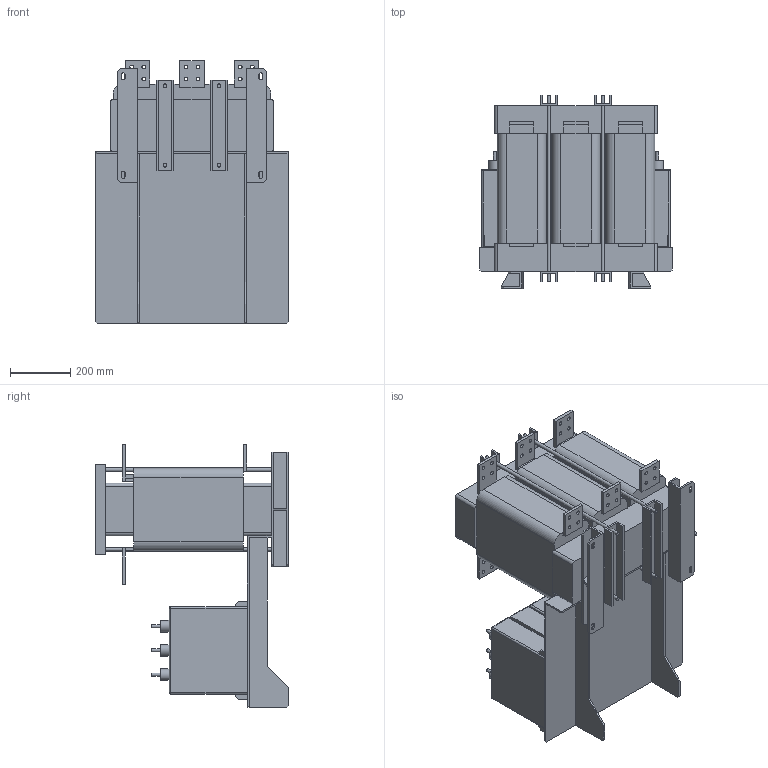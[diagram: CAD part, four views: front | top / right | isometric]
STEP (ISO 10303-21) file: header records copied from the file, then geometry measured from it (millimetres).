
FILE_DESCRIPTION(/* description */ (''),/* implementation_level */ '2;1');
FILE_NAME(/* name */ 'Sin-T4-2000.stp',/* time_stamp */ '2025-03-11T09:44:31+04:00',/* author */ ('Лео'),/* organization */ (''),/* preprocessor_version */ 'ST-DEVELOPER v19.2',/* originating_system */ 'Autodesk Inventor 2024',/* authorisation */ '');
FILE_SCHEMA (('AUTOMOTIVE_DESIGN { 1 0 10303 214 3 1 1 }'));
Length unit declared in the file: millimetre
Products named in the file (1): Sin-T4-004
Bounding box: 640 x 640 x 870 mm (x, y, z)
Volume: 116577197.2 mm3; surface area: 5609195.1 mm2
Topology: 99 solids, 99 shells, 806 faces, 1734 edges, 1126 vertices
Faces by surface type: plane 586, cylinder 193, sphere 27
Full cylindrical faces by diameter (mm): 10 x21, 12 x40, 39 x21
Entity records: 21784 total; most frequent: DIRECTION 3733, CARTESIAN_POINT 3667, ORIENTED_EDGE 3468, EDGE_CURVE 1734, LINE 1349, VECTOR 1349, AXIS2_PLACEMENT_3D 1192, VERTEX_POINT 1126
